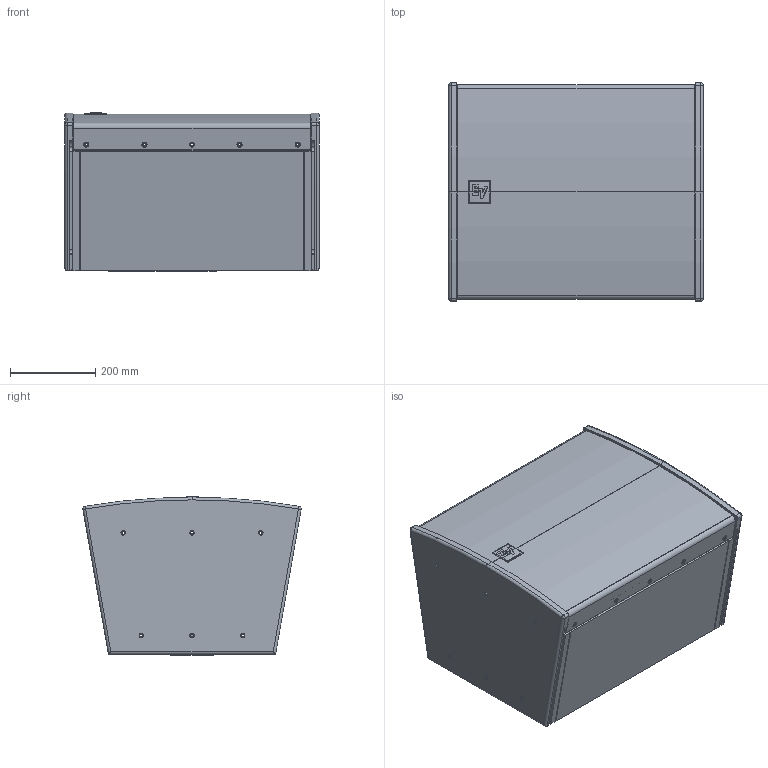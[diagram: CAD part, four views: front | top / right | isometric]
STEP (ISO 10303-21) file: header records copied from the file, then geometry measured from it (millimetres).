
FILE_DESCRIPTION (( 'STEP AP214' ), '1' );
FILE_NAME ('EVA-2082S-920 Btm Elem With Cover Plate 3D CAD.STEP', '2023-03-07T08:27:49', ( '' ), ( '' ), 'SwSTEP 2.0', 'SolidWorks 2021', '' );
FILE_SCHEMA (( 'AUTOMOTIVE_DESIGN' ));
Length unit declared in the file: millimetre
Products named in the file (10): EVA-2082S-920 Cover Plate; EVA-2082S-920 Rear Panel; EVA-2082S-920 Enclosure Assembly; EVA-2082S-920 Back Plate; EVA-2082S-920 Top And Bottom Plate; EVA-2082S-920 Side Plate; EVA-2082S-920 EV Logo; EVA-2082S-920 Grille; EVA-2082S-920 Btm Elem With Cover Plate 3D CAD
Assembly tree (11 placements, depth 3):
  EVA-2082S-920 Btm Elem With Cover Plate 3D CAD
    EVA-2082S-920 Enclosure Assembly
      EVA-2082S-920 Side Plate
      EVA-2082S-920 Side Plate
      EVA-2082S-920 Back Plate
      EVA-2082S-920 Top And Bottom Plate  x2
    EVA-2082S-920 Grille
    EVA-2082S-920 EV Logo
    EVA-2082S-920 Rear Panel
    EVA-2082S-920 Cover Plate  x2
Bounding box: 596.9 x 512.23 x 371.57 mm (x, y, z)
Volume: 20793427.3 mm3; surface area: 3425177.5 mm2
Topology: 10 solids, 10 shells, 779 faces, 2002 edges, 1265 vertices
Faces by surface type: plane 270, cylinder 240, bspline 133, cone 92, torus 44
Entity records: 25544 total; most frequent: CARTESIAN_POINT 8821, ORIENTED_EDGE 3518, DIRECTION 3212, EDGE_CURVE 1759, AXIS2_PLACEMENT_3D 1185, VERTEX_POINT 1114, LINE 842, VECTOR 842
